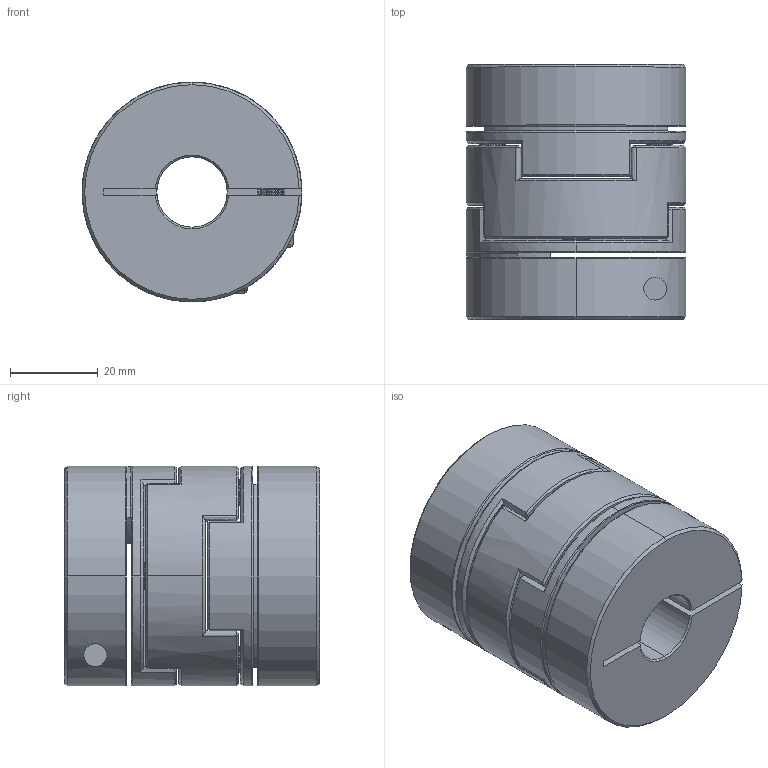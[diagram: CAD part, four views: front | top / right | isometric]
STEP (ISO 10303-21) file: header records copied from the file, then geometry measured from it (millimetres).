
FILE_DESCRIPTION (( 'STEP AP203' ), '1' );
FILE_NAME ('LZ-B-D50L58-16-22.STEP', '2021-10-29T08:12:16', ( '' ), ( '' ), 'SwSTEP 2.0', 'SolidWorks 2018', '' );
FILE_SCHEMA (( 'CONFIG_CONTROL_DESIGN' ));
Length unit declared in the file: millimetre
Products named in the file (1): LZ-B-D50L58-16-22
Bounding box: 50 x 58 x 50 mm (x, y, z)
Volume: 88874.8 mm3; surface area: 29791.4 mm2
Topology: 1 solids, 27 shells, 560 faces, 1364 edges, 810 vertices
Faces by surface type: cone 252, cylinder 160, plane 90, bspline 54, torus 4
Entity records: 17422 total; most frequent: CARTESIAN_POINT 4342, DIRECTION 2782, ORIENTED_EDGE 2720, EDGE_CURVE 1360, AXIS2_PLACEMENT_3D 1123, VERTEX_POINT 810, CIRCLE 616, EDGE_LOOP 594
